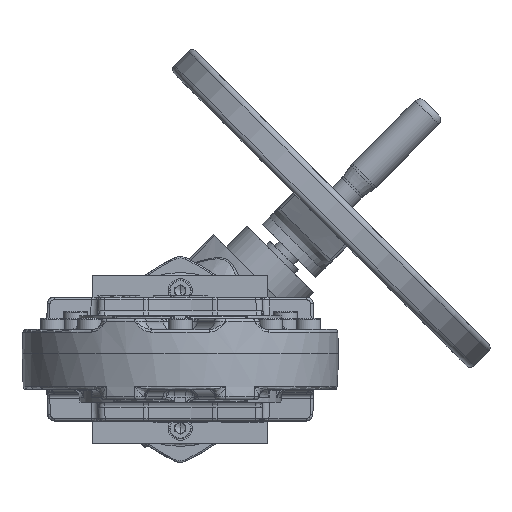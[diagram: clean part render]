
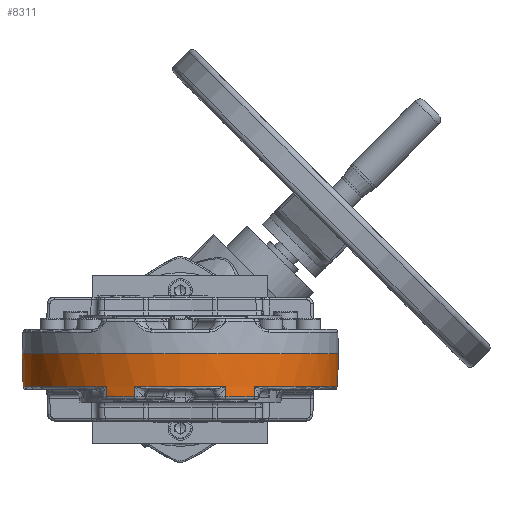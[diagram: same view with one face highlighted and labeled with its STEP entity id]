
A CAD part, front view. The second image highlights one B-rep face of the part: STEP entity #8311.
In plain terms, the highlighted conical face has half-angle 2 degrees and reference radius 117.5 mm.
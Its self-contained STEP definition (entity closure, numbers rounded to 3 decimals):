
#1676 = CARTESIAN_POINT ( 'NONE',  ( 0., 0., 0. ) ) ;
#3880 = CARTESIAN_POINT ( 'NONE',  ( 33.842, -111.625, -24.57 ) ) ;
#6428 = CARTESIAN_POINT ( 'NONE',  ( 0., 0., 0. ) ) ;
#7695 = DIRECTION ( 'NONE',  ( 0., 0., 1. ) ) ;
#7806 = EDGE_CURVE ( 'NONE', #84063, #13310, #115437, .T. ) ;
#8106 = VERTEX_POINT ( 'NONE', #3880 ) ;
#8311 = ADVANCED_FACE ( 'NONE', ( #94436 ), #9468, .T. ) ;
#8526 = ORIENTED_EDGE ( 'NONE', *, *, #47966, .T. ) ;
#9468 = CONICAL_SURFACE ( 'NONE', #28435, 117.5, 0.035 ) ;
#9472 = CARTESIAN_POINT ( 'NONE',  ( 117.5, 0., 0. ) ) ;
#11155 = LINE ( 'NONE', #60113, #87141 ) ;
#11224 = ORIENTED_EDGE ( 'NONE', *, *, #23736, .T. ) ;
#11303 = DIRECTION ( 'NONE',  ( -1., 0., 0. ) ) ;
#11745 = EDGE_CURVE ( 'NONE', #38853, #15788, #95558, .T. ) ;
#11832 = ORIENTED_EDGE ( 'NONE', *, *, #7806, .T. ) ;
#12508 = EDGE_LOOP ( 'NONE', ( #17195, #11832, #15193, #62200, #11224, #117228, #28424, #34486, #78564, #54667, #74158, #8526 ) ) ;
#13031 = EDGE_CURVE ( 'NONE', #32879, #81055, #32404, .T. ) ;
#13310 = VERTEX_POINT ( 'NONE', #80824 ) ;
#15193 = ORIENTED_EDGE ( 'NONE', *, *, #108803, .T. ) ;
#15650 = AXIS2_PLACEMENT_3D ( 'NONE', #52283, #119074, #61855 ) ;
#15788 = VERTEX_POINT ( 'NONE', #101256 ) ;
#17195 = ORIENTED_EDGE ( 'NONE', *, *, #116124, .T. ) ;
#19355 = CARTESIAN_POINT ( 'NONE',  ( -33.842, -111.625, -24.57 ) ) ;
#22892 = CIRCLE ( 'NONE', #24793, 116.642 ) ;
#23736 = EDGE_CURVE ( 'NONE', #38853, #105263, #22892, .T. ) ;
#24670 = CARTESIAN_POINT ( 'NONE',  ( -55.406, -103.617, 0. ) ) ;
#24793 = AXIS2_PLACEMENT_3D ( 'NONE', #33977, #100617, #43457 ) ;
#25040 = CARTESIAN_POINT ( 'NONE',  ( 0., 0., -32.07 ) ) ;
#27658 = CIRCLE ( 'NONE', #78761, 116.38 ) ;
#28424 = ORIENTED_EDGE ( 'NONE', *, *, #48693, .T. ) ;
#28435 = AXIS2_PLACEMENT_3D ( 'NONE', #6428, #34817, #73048 ) ;
#30340 = VERTEX_POINT ( 'NONE', #101500 ) ;
#32404 = LINE ( 'NONE', #122979, #82994 ) ;
#32879 = VERTEX_POINT ( 'NONE', #118330 ) ;
#33977 = CARTESIAN_POINT ( 'NONE',  ( 0., 0., -24.57 ) ) ;
#34486 = ORIENTED_EDGE ( 'NONE', *, *, #13031, .T. ) ;
#34599 = DIRECTION ( 'NONE',  ( 1., 0., 0. ) ) ;
#34817 = DIRECTION ( 'NONE',  ( 0., 0., 1. ) ) ;
#35303 = VERTEX_POINT ( 'NONE', #100479 ) ;
#35939 = CARTESIAN_POINT ( 'NONE',  ( -116.642, 0., -24.57 ) ) ;
#38131 = CIRCLE ( 'NONE', #83435, 116.642 ) ;
#38853 = VERTEX_POINT ( 'NONE', #35939 ) ;
#38974 = DIRECTION ( 'NONE',  ( 0.016, -0.031, 0.999 ) ) ;
#42334 = VECTOR ( 'NONE', #75278, 1000. ) ;
#43457 = DIRECTION ( 'NONE',  ( 1., 0., 0. ) ) ;
#44653 = CARTESIAN_POINT ( 'NONE',  ( -117.5, 0., 0. ) ) ;
#44856 = VECTOR ( 'NONE', #111426, 1000. ) ;
#45108 = VECTOR ( 'NONE', #100494, 1000. ) ;
#45597 = EDGE_CURVE ( 'NONE', #81055, #8106, #38131, .T. ) ;
#47666 = VERTEX_POINT ( 'NONE', #75713 ) ;
#47966 = EDGE_CURVE ( 'NONE', #47666, #35303, #68178, .T. ) ;
#48246 = DIRECTION ( 'NONE',  ( 0., 0., 1. ) ) ;
#48693 = EDGE_CURVE ( 'NONE', #30340, #32879, #84186, .T. ) ;
#49177 = CIRCLE ( 'NONE', #90217, 117.5 ) ;
#52283 = CARTESIAN_POINT ( 'NONE',  ( 0., 0., -24.57 ) ) ;
#54667 = ORIENTED_EDGE ( 'NONE', *, *, #101901, .F. ) ;
#60113 = CARTESIAN_POINT ( 'NONE',  ( 34.091, -112.446, 0. ) ) ;
#61855 = DIRECTION ( 'NONE',  ( 1., 0., 0. ) ) ;
#62200 = ORIENTED_EDGE ( 'NONE', *, *, #11745, .F. ) ;
#64486 = CARTESIAN_POINT ( 'NONE',  ( 116.642, 0., -24.57 ) ) ;
#64748 = CARTESIAN_POINT ( 'NONE',  ( 0., 0., -24.57 ) ) ;
#65724 = DIRECTION ( 'NONE',  ( -0.01, -0.033, 0.999 ) ) ;
#68178 = LINE ( 'NONE', #105692, #112983 ) ;
#68358 = DIRECTION ( 'NONE',  ( 0., 0., -1. ) ) ;
#69659 = DIRECTION ( 'NONE',  ( 0.01, -0.033, 0.999 ) ) ;
#73048 = DIRECTION ( 'NONE',  ( -1., 0., 0. ) ) ;
#74158 = ORIENTED_EDGE ( 'NONE', *, *, #96373, .T. ) ;
#74301 = DIRECTION ( 'NONE',  ( 1., 0., 0. ) ) ;
#75278 = DIRECTION ( 'NONE',  ( 0.035, 0., 0.999 ) ) ;
#75713 = CARTESIAN_POINT ( 'NONE',  ( 54.878, -102.629, -32.07 ) ) ;
#78564 = ORIENTED_EDGE ( 'NONE', *, *, #45597, .T. ) ;
#78761 = AXIS2_PLACEMENT_3D ( 'NONE', #105448, #48246, #114987 ) ;
#80824 = CARTESIAN_POINT ( 'NONE',  ( 117.5, 0., 0. ) ) ;
#81055 = VERTEX_POINT ( 'NONE', #19355 ) ;
#82428 = VERTEX_POINT ( 'NONE', #112365 ) ;
#82994 = VECTOR ( 'NONE', #65724, 1000. ) ;
#83435 = AXIS2_PLACEMENT_3D ( 'NONE', #64748, #7695, #74301 ) ;
#84063 = VERTEX_POINT ( 'NONE', #64486 ) ;
#84186 = CIRCLE ( 'NONE', #116764, 116.38 ) ;
#87141 = VECTOR ( 'NONE', #69659, 1000. ) ;
#90217 = AXIS2_PLACEMENT_3D ( 'NONE', #1676, #68358, #11303 ) ;
#91593 = DIRECTION ( 'NONE',  ( 0., 0., 1. ) ) ;
#93777 = EDGE_CURVE ( 'NONE', #30340, #105263, #118257, .T. ) ;
#94436 = FACE_OUTER_BOUND ( 'NONE', #12508, .T. ) ;
#95558 = LINE ( 'NONE', #44653, #44856 ) ;
#96373 = EDGE_CURVE ( 'NONE', #82428, #47666, #27658, .T. ) ;
#100479 = CARTESIAN_POINT ( 'NONE',  ( 55.001, -102.86, -24.57 ) ) ;
#100494 = DIRECTION ( 'NONE',  ( -0.016, -0.031, 0.999 ) ) ;
#100617 = DIRECTION ( 'NONE',  ( 0., 0., 1. ) ) ;
#100913 = CARTESIAN_POINT ( 'NONE',  ( -55.001, -102.86, -24.57 ) ) ;
#101256 = CARTESIAN_POINT ( 'NONE',  ( -117.5, 0., 0. ) ) ;
#101500 = CARTESIAN_POINT ( 'NONE',  ( -54.878, -102.629, -32.07 ) ) ;
#101901 = EDGE_CURVE ( 'NONE', #82428, #8106, #11155, .T. ) ;
#104150 = CIRCLE ( 'NONE', #15650, 116.642 ) ;
#105263 = VERTEX_POINT ( 'NONE', #100913 ) ;
#105448 = CARTESIAN_POINT ( 'NONE',  ( 0., 0., -32.07 ) ) ;
#105692 = CARTESIAN_POINT ( 'NONE',  ( 55.406, -103.617, 0. ) ) ;
#108803 = EDGE_CURVE ( 'NONE', #13310, #15788, #49177, .T. ) ;
#111426 = DIRECTION ( 'NONE',  ( -0.035, 0., 0.999 ) ) ;
#112365 = CARTESIAN_POINT ( 'NONE',  ( 33.766, -111.374, -32.07 ) ) ;
#112983 = VECTOR ( 'NONE', #38974, 1000. ) ;
#114987 = DIRECTION ( 'NONE',  ( 1., 0., 0. ) ) ;
#115437 = LINE ( 'NONE', #9472, #42334 ) ;
#116124 = EDGE_CURVE ( 'NONE', #35303, #84063, #104150, .T. ) ;
#116764 = AXIS2_PLACEMENT_3D ( 'NONE', #25040, #91593, #34599 ) ;
#117228 = ORIENTED_EDGE ( 'NONE', *, *, #93777, .F. ) ;
#118257 = LINE ( 'NONE', #24670, #45108 ) ;
#118330 = CARTESIAN_POINT ( 'NONE',  ( -33.766, -111.374, -32.07 ) ) ;
#119074 = DIRECTION ( 'NONE',  ( 0., 0., 1. ) ) ;
#122979 = CARTESIAN_POINT ( 'NONE',  ( -34.091, -112.446, 0. ) ) ;
